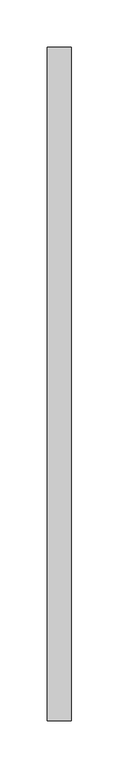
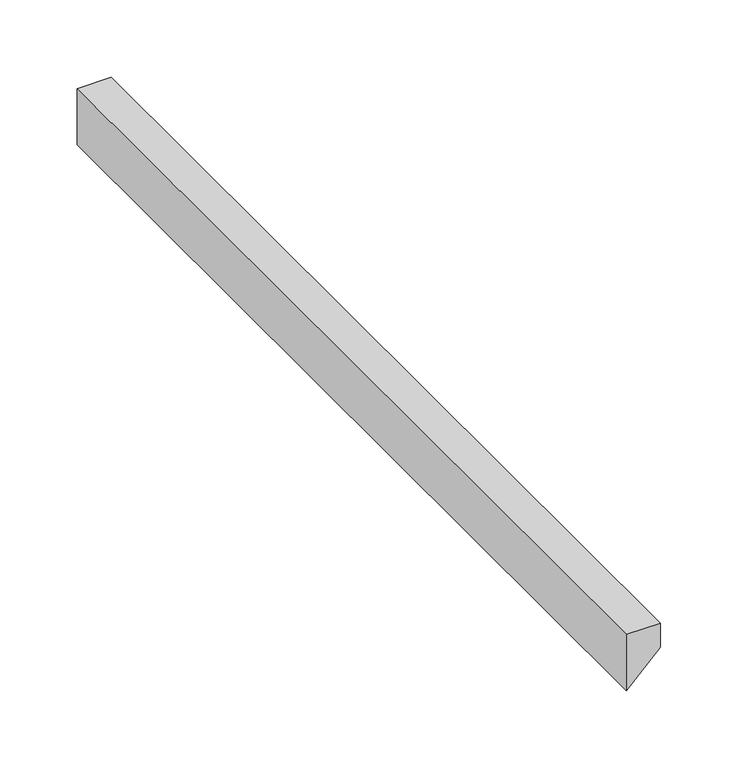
"""IFC4 building model written with IfcOpenShell, lengths in millimetres: proxy geometry, CAMBRIDGE^TABLE 2_4884 Rect-CORNER STILE 3."""

from ifc_helpers import new_model, si_unit, frame, origin, place, context, project, spatial, polyline, outline, extrude, source, transform, mapped, element, save


def generic_models_289229bd(model_context):
    return source(origin(), model_context, "Body", "SweptSolid", [
        extrude(outline(polyline([(-787.4, 635.0), (-768.35, 635.0), (-768.35, 609.6), (-812.8, 609.6), (-787.4, 635.0)])), frame((0.0, -711.2, 0.0), z_axis=(0.0, 1.0, 0.0), x_axis=(0.0, 0.0, 1.0)), (0.0, 0.0, 1.0), 711.2),
    ])


if __name__ == "__main__":
    model = new_model("IFC4")
    model_context = context("Model", 3, world=origin())
    ifc_project = project(units=[si_unit("LENGTHUNIT", "METRE", prefix="MILLI")], contexts=[model_context])
    site = spatial("IfcSite", under=ifc_project)
    building = spatial("IfcBuilding", under=site)
    placement = place(None, origin())
    generic_models_shape = generic_models_289229bd(model_context)
    element("IfcBuildingElementProxy", 1, Name="CAMBRIDGE^TABLE 2_4884 Rect-CORNER STILE 3", ObjectType="CAMBRIDGE^TABLE 2_4884 Rect-CORNER STILE 3", at=placement, inside=building, context=model_context, shape_type="MappedRepresentation", body=[
        mapped(generic_models_shape, transform((0.0, 0.0, 0.0), x_axis=(1.0, 0.0, 0.0), y_axis=(0.0, 1.0, 0.0), z_axis=(0.0, 0.0, 1.0))),
    ])
    save(model, "model.ifc")
